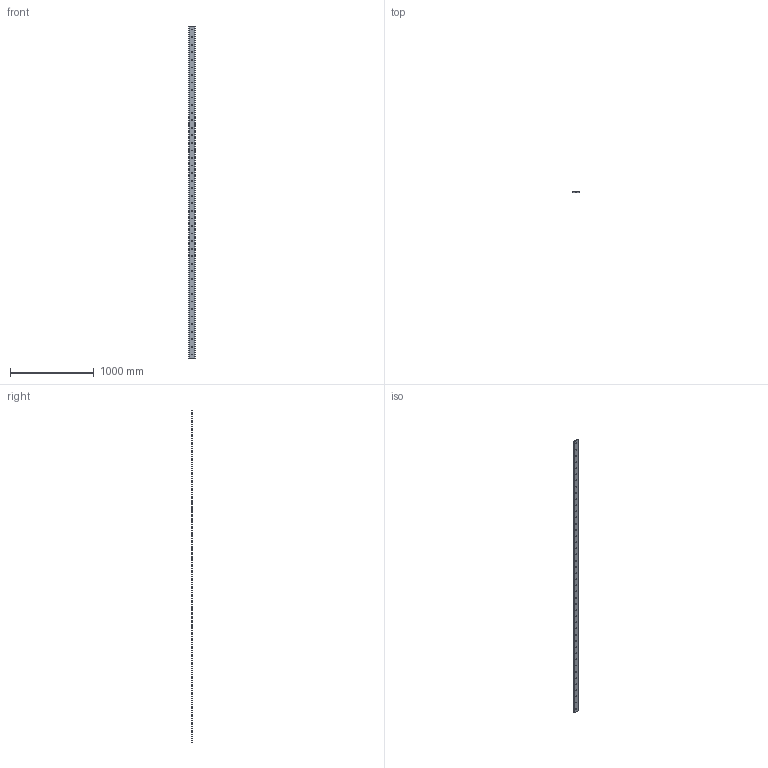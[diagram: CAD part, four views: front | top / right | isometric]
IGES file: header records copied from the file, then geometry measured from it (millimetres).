
Start section: 3D InterOp IGES (v. 2019 1.0.2), Spatial Corp. Copyright (c) 1999-2017.
Global section: file name: SS M76 3956.igs; native system: Spatial Corp.; preprocessor: 3D InterOp GENERIC/IGES 3.0; author: Noname; organization: Noname; date: 20220628.112214; units: millimetre
Bounding box: 75.68 x 6.1 x 3956 mm (x, y, z)
Surface area: 620180.8 mm2 (no closed solid volume)
Topology: 0 solids, 0 shells, 100 faces, 588 edges, 588 vertices
Faces by surface type: revolution 92, extrusion 8
